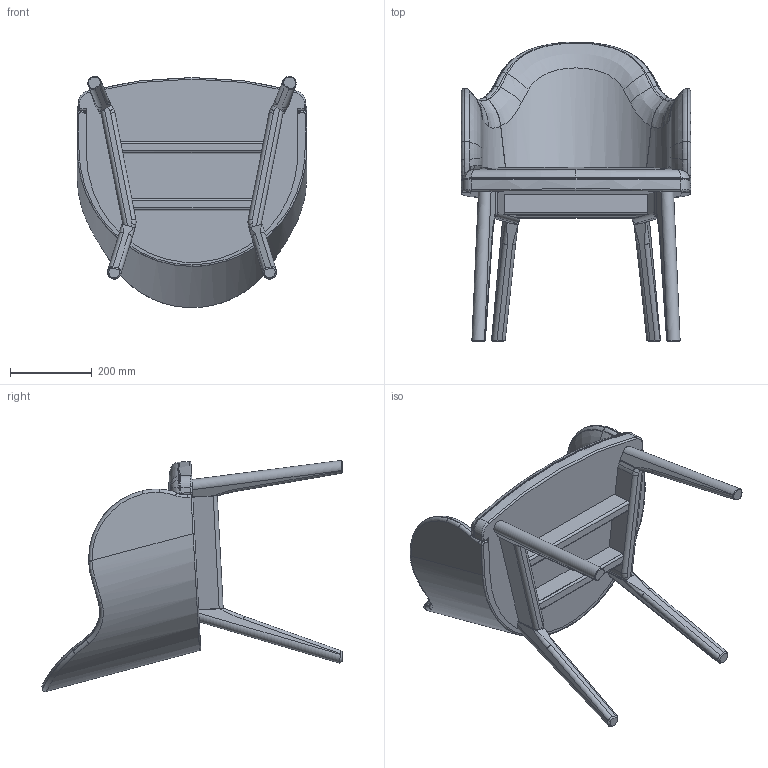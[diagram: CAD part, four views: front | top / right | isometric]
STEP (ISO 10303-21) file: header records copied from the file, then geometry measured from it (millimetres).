
FILE_DESCRIPTION (( 'STEP AP214' ), '1' );
FILE_NAME ('S僠僃傾乕WCG.STEP', '2026-03-30T23:26:37', ( '' ), ( '' ), 'SwSTEP 2.0', 'SolidWorks 2025', '' );
FILE_SCHEMA (( 'AUTOMOTIVE_DESIGN' ));
Length unit declared in the file: millimetre
Products named in the file (1): SチェアーWCG
Bounding box: 560 x 732.7 x 564.62 mm (x, y, z)
Volume: 28163659.9 mm3; surface area: 1581024.9 mm2
Topology: 10 solids, 10 shells, 426 faces, 1068 edges, 658 vertices
Faces by surface type: bspline 161, cylinder 105, plane 100, torus 52, cone 8
Entity records: 38887 total; most frequent: CARTESIAN_POINT 30131, ORIENTED_EDGE 2128, DIRECTION 1320, EDGE_CURVE 1064, VERTEX_POINT 658, AXIS2_PLACEMENT_3D 514, B_SPLINE_CURVE_WITH_KNOTS 474, ADVANCED_FACE 426
